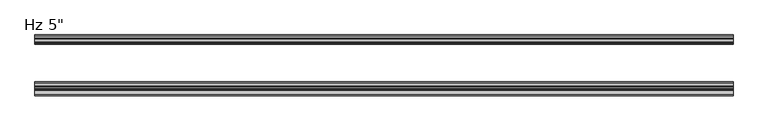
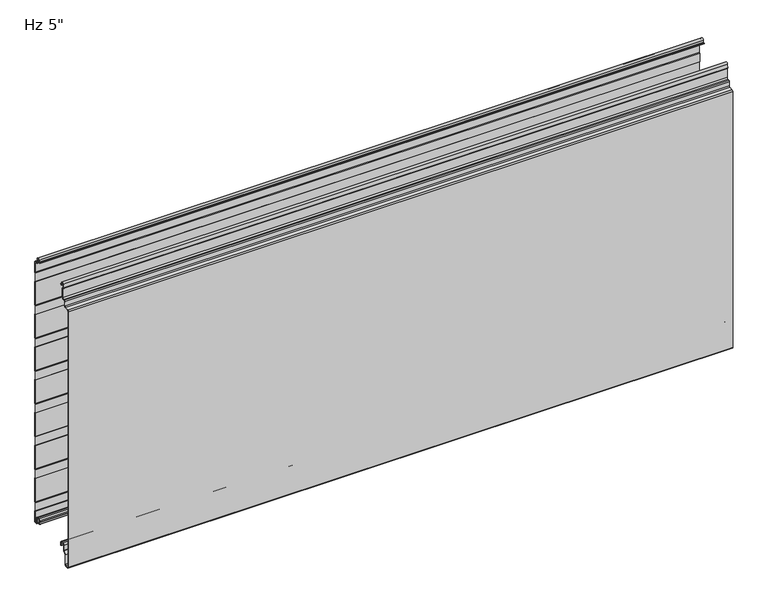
"""IFC4 building model written with IfcOpenShell, lengths in millimetres: plate geometry."""

from ifc_helpers import new_model, si_unit, point, frame, frame_2d, origin, place, context, project, spatial, polyline, circle_curve, trimmed, segment, composite_curve, outline, extrude, source, transform, mapped, element, save
from ifc_brep_helpers import plane_surface, cylinder_surface, revolved_surface, advanced_brep


def plate_04382809(model_context):
    return source(origin(), model_context, "Body", "SolidModel", [
        advanced_brep(
        [(-730.0, -17.0015159, 2.0313088), (-730.0, -18.0015191, 1.0313116), (-730.0, -19.0015104, 2.0313088), (-730.0, -19.0015105, 6.0315125), (-730.0, -18.0015159, 6.0315125), (-730.0, -18.0015159, 8.7237223), (-730.0, -14.7015202, 12.023718), (-730.0, -10.301529, 12.023718), (-730.0, -7.0015335, 8.7237225), (-730.0, -7.0015335, -1.6962564), (-730.0, -5.2315393, -3.4662506), (-730.0, -0.9999916, -3.4662506), (-730.0, -0.9999916, 21.034026), (-730.0, -2.2002307, 22.4196686), (-730.0, -2.2002307, 41.7948349), (-730.0, -1.0, 43.1804679), (-730.0, -1.0, 97.2338833), (-730.0, -2.2002307, 98.6195162), (-730.0, -2.2002307, 117.9946825), (-730.0, -1.0, 119.3803155), (-730.0, -1.0, 173.4337309), (-730.0, -2.2002307, 174.8193638), (-730.0, -2.2002307, 194.1945301), (-730.0, -1.0, 195.5801631), (-730.0, -1.0, 249.6335785), (-730.0, -2.2002307, 251.0192114), (-730.0, -2.2002307, 270.3943777), (-730.0, -1.0, 271.7800107), (-730.0, -1.0, 325.8334261), (-730.0, -2.2002307, 327.219059), (-730.0, -2.2002307, 346.5942253), (-730.0, -1.0, 347.9798583), (-730.0, -1.0, 402.0332737), (-730.0, -2.2002307, 403.4189066), (-730.0, -2.2002307, 422.7940729), (-730.0, -1.0, 424.1797059), (-730.0, -1.0, 478.2331213), (-730.0, -2.2002307, 479.6187542), (-730.0, -2.2002307, 498.9939205), (-730.0, -1.0, 500.3795535), (-730.0, -1.0, 554.4329689), (-730.0, -2.2002307, 555.8186018), (-730.0, -2.2002307, 575.1937681), (-730.0, -1.0, 576.5794011), (-730.0, -1.0, 601.0787013), (-730.0, -6.0026007, 601.0787013), (-730.0, -9.9974365, 604.9016499), (-730.0, -10.4046442, 613.3931719), (-730.0, -14.7059822, 613.3921924), (-730.0, -14.9256429, 609.2513685), (-730.0, -16.6743462, 607.5686884), (-730.0, -19.0015288, 607.5686884), (-730.0, -19.0015288, 608.5686884), (-730.0, -16.6743462, 608.5686884), (-730.0, -15.9247038, 609.2955779), (-730.0, -15.7045782, 613.4451655), (-730.0, -9.405912, 613.4435732), (-730.0, -8.9985844, 604.9495495), (-730.0, -6.0004836, 602.0787013), (-730.0, -1.4015652, 602.0787013), (-730.0, -0.001568, 600.678797), (-730.0, 2.09e-05, 576.7275849), (-730.0, -0.3417885, 575.8119353), (-730.0, -1.2002307, 574.8208877), (-730.0, -1.2002307, 556.1914823), (-730.0, -0.3417885, 555.2004346), (-730.0, 0.0, 554.2838177), (-730.0, 0.0, 500.5287046), (-730.0, -0.3417885, 499.6120877), (-730.0, -1.2002307, 498.6210401), (-730.0, -1.2002307, 479.9916347), (-730.0, -0.3417885, 479.000587), (-730.0, 0.0, 478.0839701), (-730.0, 0.0, 424.328857), (-730.0, -0.3417885, 423.4122401), (-730.0, -1.2002307, 422.4211925), (-730.0, -1.2002307, 403.7917871), (-730.0, -0.3417885, 402.8007394), (-730.0, 0.0, 401.8841225), (-730.0, 0.0, 348.1290094), (-730.0, -0.3417885, 347.2123925), (-730.0, -1.2002307, 346.2213449), (-730.0, -1.2002307, 327.5919395), (-730.0, -0.3417885, 326.6008918), (-730.0, 0.0, 325.6842749), (-730.0, 0.0, 271.9291618), (-730.0, -0.3417885, 271.0125449), (-730.0, -1.2002307, 270.0214973), (-730.0, -1.2002307, 251.3920919), (-730.0, -0.3417885, 250.4010442), (-730.0, 0.0, 249.4844273), (-730.0, 0.0, 195.7293142), (-730.0, -0.3417885, 194.8126973), (-730.0, -1.2002307, 193.8216497), (-730.0, -1.2002307, 175.1922443), (-730.0, -0.3417885, 174.2011966), (-730.0, 0.0, 173.2845797), (-730.0, 0.0, 119.5294666), (-730.0, -0.3417885, 118.6128497), (-730.0, -1.2002307, 117.6218021), (-730.0, -1.2002307, 98.9923967), (-730.0, -0.3417885, 98.001349), (-730.0, 0.0, 97.0847321), (-730.0, 0.0, 43.329619), (-730.0, -0.3417885, 42.4130021), (-730.0, -1.2002307, 41.4219545), (-730.0, -1.2002307, 22.7925491), (-730.0, -0.3417885, 21.8015014), (-730.0, 0.0, 20.8847931), (-730.0, 8.4e-06, -3.0662545), (-730.0, -1.3999878, -4.4662506), (-730.0, -5.2315393, -4.4662506), (-730.0, -8.0015335, -1.6962564), (-730.0, -8.0015335, 8.7237225), (-730.0, -10.301529, 11.023718), (-730.0, -14.7015202, 11.023718), (-730.0, -17.0015159, 8.7237223), (730.0, -17.0015159, 2.0313088), (730.0, -17.0015159, 8.7237223), (730.0, -14.7015202, 11.023718), (730.0, -10.301529, 11.023718), (730.0, -8.0015335, 8.7237225), (730.0, -8.0015335, -1.6962564), (730.0, -5.2315393, -4.4662506), (730.0, -1.3999878, -4.4662506), (730.0, 8.4e-06, -3.0662545), (730.0, 8.4e-06, 20.8848845), (730.0, -0.3417885, 21.8015014), (730.0, -1.2002307, 22.7925491), (730.0, -1.2002307, 41.4219545), (730.0, -0.3417885, 42.4130021), (730.0, 0.0, 43.329619), (730.0, 0.0, 97.0847321), (730.0, -0.3417885, 98.001349), (730.0, -1.2002307, 98.9923967), (730.0, -1.2002307, 117.6218021), (730.0, -0.3417885, 118.6128497), (730.0, 0.0, 119.5294666), (730.0, 0.0, 173.2845797), (730.0, -0.3417885, 174.2011966), (730.0, -1.2002307, 175.1922443), (730.0, -1.2002307, 193.8216497), (730.0, -0.3417885, 194.8126973), (730.0, 0.0, 195.7293142), (730.0, 0.0, 249.4844273), (730.0, -0.3417885, 250.4010442), (730.0, -1.2002307, 251.3920919), (730.0, -1.2002307, 270.0214973), (730.0, -0.3417885, 271.0125449), (730.0, 0.0, 271.9291618), (730.0, 0.0, 325.6842749), (730.0, -0.3417885, 326.6008918), (730.0, -1.2002307, 327.5919395), (730.0, -1.2002307, 346.2213449), (730.0, -0.3417885, 347.2123925), (730.0, 0.0, 348.1290094), (730.0, 0.0, 401.8841225), (730.0, -0.3417885, 402.8007394), (730.0, -1.2002307, 403.7917871), (730.0, -1.2002307, 422.4211925), (730.0, -0.3417885, 423.4122401), (730.0, 0.0, 424.328857), (730.0, 0.0, 478.0839701), (730.0, -0.3417885, 479.000587), (730.0, -1.2002307, 479.9916347), (730.0, -1.2002307, 498.6210401), (730.0, -0.3417885, 499.6120877), (730.0, 0.0, 500.5287046), (730.0, 0.0, 554.2838177), (730.0, -0.3417885, 555.2004346), (730.0, -1.2002307, 556.1914823), (730.0, -1.2002307, 574.8208877), (730.0, -0.3417885, 575.8119353), (730.0, 0.0, 576.7285522), (730.0, 2.09e-05, 600.678797), (730.0, -1.4015652, 602.0787013), (730.0, -6.0004836, 602.0787013), (730.0, -8.9985844, 604.9495495), (730.0, -9.405912, 613.4435732), (730.0, -15.7045782, 613.4451655), (730.0, -15.9247038, 609.2955779), (730.0, -16.6743462, 608.5686884), (730.0, -19.0015288, 608.5686884), (730.0, -19.0015288, 607.5686884), (730.0, -16.6743462, 607.5686884), (730.0, -14.9256429, 609.2513685), (730.0, -14.7059822, 613.3921924), (730.0, -10.4046442, 613.3931719), (730.0, -9.9974365, 604.9016499), (730.0, -6.0026007, 601.0787013), (730.0, -1.0, 601.0787013), (730.0, -1.0, 576.5794011), (730.0, -2.2002307, 575.1937681), (730.0, -2.2002307, 555.8186018), (730.0, -1.0, 554.4329689), (730.0, -1.0, 500.3795535), (730.0, -2.2002307, 498.9939205), (730.0, -2.2002307, 479.6187542), (730.0, -1.0, 478.2331213), (730.0, -1.0, 424.1797059), (730.0, -2.2002307, 422.7940729), (730.0, -2.2002307, 403.4189066), (730.0, -1.0, 402.0332737), (730.0, -1.0, 347.9798583), (730.0, -2.2002307, 346.5942253), (730.0, -2.2002307, 327.219059), (730.0, -1.0, 325.8334261), (730.0, -1.0, 271.7800107), (730.0, -2.2002307, 270.3943777), (730.0, -2.2002307, 251.0192114), (730.0, -1.0, 249.6335785), (730.0, -1.0, 195.5801631), (730.0, -2.2002307, 194.1945301), (730.0, -2.2002307, 174.8193638), (730.0, -1.0, 173.4337309), (730.0, -1.0, 119.3803155), (730.0, -2.2002307, 117.9946825), (730.0, -2.2002307, 98.6195162), (730.0, -1.0, 97.2338833), (730.0, -1.0, 43.1804679), (730.0, -2.2002307, 41.7948349), (730.0, -2.2002307, 22.4196686), (730.0, -0.9999916, 21.034026), (730.0, -0.9999916, -3.4662506), (730.0, -5.2315393, -3.4662506), (730.0, -7.0015335, -1.6962564), (730.0, -7.0015335, 8.7237225), (730.0, -10.301529, 12.023718), (730.0, -14.7015202, 12.023718), (730.0, -18.0015159, 8.7237223), (730.0, -18.0015159, 6.0315125), (730.0, -19.0015105, 6.0315125), (730.0, -19.0015105, 2.0313088), (730.0, -18.0015191, 1.0313116)],
        [
            (0, 1, circle_curve(frame((-730.0, -18.0015132, 2.0313088), z_axis=(-1.0, 0.0, 0.0), x_axis=(0.0, 0.0, 1.0)), 0.9999973)),
            (1, 2, circle_curve(frame((-730.0, -18.0015132, 2.0313088), z_axis=(-1.0, 0.0, 0.0), x_axis=(0.0, 0.0, 1.0)), 0.9999972)),
            (2, 3),
            (3, 4),
            (4, 5),
            (5, 6, circle_curve(frame((-730.0, -14.7015202, 8.7237223), z_axis=(-1.0, 0.0, 0.0), x_axis=(0.0, 0.0, 1.0)), 3.2999957)),
            (6, 7),
            (7, 8, circle_curve(frame((-730.0, -10.301529, 8.7237225), z_axis=(-1.0, 0.0, 0.0), x_axis=(0.0, 0.0, 1.0)), 3.2999955)),
            (8, 9),
            (9, 10, circle_curve(frame((-730.0, -5.2315393, -1.6962564), z_axis=(1.0, 0.0, 0.0), x_axis=(0.0, 0.0, 1.0)), 1.7699942)),
            (10, 11),
            (11, 12),
            (12, 13),
            (13, 14),
            (14, 15),
            (15, 16),
            (16, 17),
            (17, 18),
            (18, 19),
            (19, 20),
            (20, 21),
            (21, 22),
            (22, 23),
            (23, 24),
            (24, 25),
            (25, 26),
            (26, 27),
            (27, 28),
            (28, 29),
            (29, 30),
            (30, 31),
            (31, 32),
            (32, 33),
            (33, 34),
            (34, 35),
            (35, 36),
            (36, 37),
            (37, 38),
            (38, 39),
            (39, 40),
            (40, 41),
            (41, 42),
            (42, 43),
            (43, 44),
            (44, 45),
            (45, 46, circle_curve(frame((-730.0, -5.9867338, 605.0939817), z_axis=(-1.0, 0.0, 0.0), x_axis=(0.0, 0.0, 1.0)), 4.0153117)),
            (46, 47),
            (47, 48, circle_curve(frame((-730.0, -12.5552871, 613.2781032), z_axis=(1.0, 0.0, 0.0), x_axis=(0.0, 0.0, 1.0)), 2.153719)),
            (48, 49),
            (49, 50, circle_curve(frame((-730.0, -16.6743462, 609.3186869), z_axis=(-1.0, 0.0, 0.0), x_axis=(0.0, 0.0, 1.0)), 1.7499985)),
            (50, 51),
            (51, 52),
            (52, 53),
            (53, 54, circle_curve(frame((-730.0, -16.6743462, 609.3186869), z_axis=(1.0, 0.0, 0.0), x_axis=(0.0, 0.0, 1.0)), 0.7499985)),
            (54, 55),
            (55, 56, circle_curve(frame((-730.0, -12.5552871, 613.2781032), z_axis=(-1.0, 0.0, 0.0), x_axis=(0.0, 0.0, 1.0)), 3.153719)),
            (56, 57),
            (57, 58, circle_curve(frame((-730.0, -5.9867338, 605.0939817), z_axis=(1.0, 0.0, 0.0), x_axis=(0.0, 0.0, 1.0)), 3.0153117)),
            (58, 59),
            (59, 60, circle_curve(frame((-730.0, -1.4015652, 600.6787041), z_axis=(-1.0, 0.0, 0.0), x_axis=(0.0, 0.0, 1.0)), 1.3999972)),
            (60, 61),
            (61, 62, circle_curve(frame((-730.0, -1.3999972, 576.7285522), z_axis=(-1.0, 0.0, 0.0), x_axis=(0.0, 0.0, 1.0)), 1.3999972)),
            (62, 63),
            (63, 64),
            (64, 65),
            (65, 66, circle_curve(frame((-730.0, -1.3999972, 554.2838177), z_axis=(-1.0, 0.0, 0.0), x_axis=(0.0, 0.0, 1.0)), 1.3999972)),
            (66, 67),
            (67, 68, circle_curve(frame((-730.0, -1.3999972, 500.5287046), z_axis=(-1.0, 0.0, 0.0), x_axis=(0.0, 0.0, 1.0)), 1.3999972)),
            (68, 69),
            (69, 70),
            (70, 71),
            (71, 72, circle_curve(frame((-730.0, -1.3999972, 478.0839701), z_axis=(-1.0, 0.0, 0.0), x_axis=(0.0, 0.0, 1.0)), 1.3999972)),
            (72, 73),
            (73, 74, circle_curve(frame((-730.0, -1.3999972, 424.328857), z_axis=(-1.0, 0.0, 0.0), x_axis=(0.0, 0.0, 1.0)), 1.3999972)),
            (74, 75),
            (75, 76),
            (76, 77),
            (77, 78, circle_curve(frame((-730.0, -1.3999972, 401.8841225), z_axis=(-1.0, 0.0, 0.0), x_axis=(0.0, 0.0, 1.0)), 1.3999972)),
            (78, 79),
            (79, 80, circle_curve(frame((-730.0, -1.3999972, 348.1290094), z_axis=(-1.0, 0.0, 0.0), x_axis=(0.0, 0.0, 1.0)), 1.3999972)),
            (80, 81),
            (81, 82),
            (82, 83),
            (83, 84, circle_curve(frame((-730.0, -1.3999972, 325.6842749), z_axis=(-1.0, 0.0, 0.0), x_axis=(0.0, 0.0, 1.0)), 1.3999972)),
            (84, 85),
            (85, 86, circle_curve(frame((-730.0, -1.3999972, 271.9291618), z_axis=(-1.0, 0.0, 0.0), x_axis=(0.0, 0.0, 1.0)), 1.3999972)),
            (86, 87),
            (87, 88),
            (88, 89),
            (89, 90, circle_curve(frame((-730.0, -1.3999972, 249.4844273), z_axis=(-1.0, 0.0, 0.0), x_axis=(0.0, 0.0, 1.0)), 1.3999972)),
            (90, 91),
            (91, 92, circle_curve(frame((-730.0, -1.3999972, 195.7293142), z_axis=(-1.0, 0.0, 0.0), x_axis=(0.0, 0.0, 1.0)), 1.3999972)),
            (92, 93),
            (93, 94),
            (94, 95),
            (95, 96, circle_curve(frame((-730.0, -1.3999972, 173.2845797), z_axis=(-1.0, 0.0, 0.0), x_axis=(0.0, 0.0, 1.0)), 1.3999972)),
            (96, 97),
            (97, 98, circle_curve(frame((-730.0, -1.3999972, 119.5294666), z_axis=(-1.0, 0.0, 0.0), x_axis=(0.0, 0.0, 1.0)), 1.3999972)),
            (98, 99),
            (99, 100),
            (100, 101),
            (101, 102, circle_curve(frame((-730.0, -1.3999972, 97.0847321), z_axis=(-1.0, 0.0, 0.0), x_axis=(0.0, 0.0, 1.0)), 1.3999972)),
            (102, 103),
            (103, 104, circle_curve(frame((-730.0, -1.3999972, 43.329619), z_axis=(-1.0, 0.0, 0.0), x_axis=(0.0, 0.0, 1.0)), 1.3999972)),
            (104, 105),
            (105, 106),
            (106, 107),
            (107, 108, circle_curve(frame((-730.0, -1.3999972, 20.8848845), z_axis=(-1.0, 0.0, 0.0), x_axis=(0.0, 0.0, 1.0)), 1.3999972)),
            (108, 109),
            (109, 110, circle_curve(frame((-730.0, -1.3999878, -3.0662545), z_axis=(-1.0, 0.0, 0.0), x_axis=(0.0, 0.0, 1.0)), 1.3999962)),
            (110, 111),
            (111, 112, circle_curve(frame((-730.0, -5.2315393, -1.6962564), z_axis=(-1.0, 0.0, 0.0), x_axis=(0.0, 0.0, 1.0)), 2.7699942)),
            (112, 113),
            (113, 114, circle_curve(frame((-730.0, -10.301529, 8.7237225), z_axis=(1.0, 0.0, 0.0), x_axis=(0.0, 0.0, 1.0)), 2.2999955)),
            (114, 115),
            (115, 116, circle_curve(frame((-730.0, -14.7015202, 8.7237223), z_axis=(1.0, 0.0, 0.0), x_axis=(0.0, 0.0, 1.0)), 2.2999957)),
            (116, 0),
            (117, 118),
            (118, 119, circle_curve(frame((730.0, -14.7015202, 8.7237223), z_axis=(-1.0, 0.0, 0.0), x_axis=(0.0, 0.0, 1.0)), 2.2999957)),
            (119, 120),
            (120, 121, circle_curve(frame((730.0, -10.301529, 8.7237225), z_axis=(-1.0, 0.0, 0.0), x_axis=(0.0, 0.0, 1.0)), 2.2999955)),
            (121, 122),
            (122, 123, circle_curve(frame((730.0, -5.2315393, -1.6962564), z_axis=(1.0, 0.0, 0.0), x_axis=(0.0, 0.0, 1.0)), 2.7699942)),
            (123, 124),
            (124, 125, circle_curve(frame((730.0, -1.3999878, -3.0662545), z_axis=(1.0, 0.0, 0.0), x_axis=(0.0, 0.0, 1.0)), 1.3999962)),
            (125, 126),
            (126, 127, circle_curve(frame((730.0, -1.3999972, 20.8848845), z_axis=(1.0, 0.0, 0.0), x_axis=(0.0, 0.0, 1.0)), 1.3999972)),
            (127, 128),
            (128, 129),
            (129, 130),
            (130, 131, circle_curve(frame((730.0, -1.3999972, 43.329619), z_axis=(1.0, 0.0, 0.0), x_axis=(0.0, 0.0, 1.0)), 1.3999972)),
            (131, 132),
            (132, 133, circle_curve(frame((730.0, -1.3999972, 97.0847321), z_axis=(1.0, 0.0, 0.0), x_axis=(0.0, 0.0, 1.0)), 1.3999972)),
            (133, 134),
            (134, 135),
            (135, 136),
            (136, 137, circle_curve(frame((730.0, -1.3999972, 119.5294666), z_axis=(1.0, 0.0, 0.0), x_axis=(0.0, 0.0, 1.0)), 1.3999972)),
            (137, 138),
            (138, 139, circle_curve(frame((730.0, -1.3999972, 173.2845797), z_axis=(1.0, 0.0, 0.0), x_axis=(0.0, 0.0, 1.0)), 1.3999972)),
            (139, 140),
            (140, 141),
            (141, 142),
            (142, 143, circle_curve(frame((730.0, -1.3999972, 195.7293142), z_axis=(1.0, 0.0, 0.0), x_axis=(0.0, 0.0, 1.0)), 1.3999972)),
            (143, 144),
            (144, 145, circle_curve(frame((730.0, -1.3999972, 249.4844273), z_axis=(1.0, 0.0, 0.0), x_axis=(0.0, 0.0, 1.0)), 1.3999972)),
            (145, 146),
            (146, 147),
            (147, 148),
            (148, 149, circle_curve(frame((730.0, -1.3999972, 271.9291618), z_axis=(1.0, 0.0, 0.0), x_axis=(0.0, 0.0, 1.0)), 1.3999972)),
            (149, 150),
            (150, 151, circle_curve(frame((730.0, -1.3999972, 325.6842749), z_axis=(1.0, 0.0, 0.0), x_axis=(0.0, 0.0, 1.0)), 1.3999972)),
            (151, 152),
            (152, 153),
            (153, 154),
            (154, 155, circle_curve(frame((730.0, -1.3999972, 348.1290094), z_axis=(1.0, 0.0, 0.0), x_axis=(0.0, 0.0, 1.0)), 1.3999972)),
            (155, 156),
            (156, 157, circle_curve(frame((730.0, -1.3999972, 401.8841225), z_axis=(1.0, 0.0, 0.0), x_axis=(0.0, 0.0, 1.0)), 1.3999972)),
            (157, 158),
            (158, 159),
            (159, 160),
            (160, 161, circle_curve(frame((730.0, -1.3999972, 424.328857), z_axis=(1.0, 0.0, 0.0), x_axis=(0.0, 0.0, 1.0)), 1.3999972)),
            (161, 162),
            (162, 163, circle_curve(frame((730.0, -1.3999972, 478.0839701), z_axis=(1.0, 0.0, 0.0), x_axis=(0.0, 0.0, 1.0)), 1.3999972)),
            (163, 164),
            (164, 165),
            (165, 166),
            (166, 167, circle_curve(frame((730.0, -1.3999972, 500.5287046), z_axis=(1.0, 0.0, 0.0), x_axis=(0.0, 0.0, 1.0)), 1.3999972)),
            (167, 168),
            (168, 169, circle_curve(frame((730.0, -1.3999972, 554.2838177), z_axis=(1.0, 0.0, 0.0), x_axis=(0.0, 0.0, 1.0)), 1.3999972)),
            (169, 170),
            (170, 171),
            (171, 172),
            (172, 173, circle_curve(frame((730.0, -1.3999972, 576.7285522), z_axis=(1.0, 0.0, 0.0), x_axis=(0.0, 0.0, 1.0)), 1.3999972)),
            (173, 174),
            (174, 175, circle_curve(frame((730.0, -1.4015652, 600.6787041), z_axis=(1.0, 0.0, 0.0), x_axis=(0.0, 0.0, 1.0)), 1.3999972)),
            (175, 176),
            (176, 177, circle_curve(frame((730.0, -5.9867338, 605.0939817), z_axis=(-1.0, 0.0, 0.0), x_axis=(0.0, 0.0, 1.0)), 3.0153117)),
            (177, 178),
            (178, 179, circle_curve(frame((730.0, -12.5552871, 613.2781032), z_axis=(1.0, 0.0, 0.0), x_axis=(0.0, 0.0, 1.0)), 3.153719)),
            (179, 180),
            (180, 181, circle_curve(frame((730.0, -16.6743462, 609.3186869), z_axis=(-1.0, 0.0, 0.0), x_axis=(0.0, 0.0, 1.0)), 0.7499985)),
            (181, 182),
            (182, 183),
            (183, 184),
            (184, 185, circle_curve(frame((730.0, -16.6743462, 609.3186869), z_axis=(1.0, 0.0, 0.0), x_axis=(0.0, 0.0, 1.0)), 1.7499985)),
            (185, 186),
            (186, 187, circle_curve(frame((730.0, -12.5552871, 613.2781032), z_axis=(-1.0, 0.0, 0.0), x_axis=(0.0, 0.0, 1.0)), 2.153719)),
            (187, 188),
            (188, 189, circle_curve(frame((730.0, -5.9867338, 605.0939817), z_axis=(1.0, 0.0, 0.0), x_axis=(0.0, 0.0, 1.0)), 4.0153117)),
            (189, 190),
            (190, 191),
            (191, 192),
            (192, 193),
            (193, 194),
            (194, 195),
            (195, 196),
            (196, 197),
            (197, 198),
            (198, 199),
            (199, 200),
            (200, 201),
            (201, 202),
            (202, 203),
            (203, 204),
            (204, 205),
            (205, 206),
            (206, 207),
            (207, 208),
            (208, 209),
            (209, 210),
            (210, 211),
            (211, 212),
            (212, 213),
            (213, 214),
            (214, 215),
            (215, 216),
            (216, 217),
            (217, 218),
            (218, 219),
            (219, 220),
            (220, 221),
            (221, 222),
            (222, 223),
            (223, 224),
            (224, 225, circle_curve(frame((730.0, -5.2315393, -1.6962564), z_axis=(-1.0, 0.0, 0.0), x_axis=(0.0, 0.0, 1.0)), 1.7699942)),
            (225, 226),
            (226, 227, circle_curve(frame((730.0, -10.301529, 8.7237225), z_axis=(1.0, 0.0, 0.0), x_axis=(0.0, 0.0, 1.0)), 3.2999955)),
            (227, 228),
            (228, 229, circle_curve(frame((730.0, -14.7015202, 8.7237223), z_axis=(1.0, 0.0, 0.0), x_axis=(0.0, 0.0, 1.0)), 3.2999957)),
            (229, 230),
            (230, 231),
            (231, 232),
            (232, 233, circle_curve(frame((730.0, -18.0015132, 2.0313088), z_axis=(1.0, 0.0, 0.0), x_axis=(0.0, 0.0, 1.0)), 0.9999972)),
            (233, 117, circle_curve(frame((730.0, -18.0015132, 2.0313088), z_axis=(1.0, 0.0, 0.0), x_axis=(0.0, 0.0, 1.0)), 0.9999973)),
            (116, 118),
            (117, 0),
            (115, 119),
            (114, 120),
            (113, 121),
            (112, 122),
            (111, 123),
            (110, 124),
            (109, 125),
            (108, 126),
            (90, 144),
            (143, 91),
            (107, 127),
            (106, 128),
            (105, 129),
            (103, 131),
            (130, 104),
            (101, 133),
            (132, 102),
            (86, 148),
            (147, 87),
            (142, 92),
            (141, 93),
            (96, 138),
            (137, 97),
            (89, 145),
            (88, 146),
            (85, 149),
            (136, 98),
            (99, 135),
            (134, 100),
            (95, 139),
            (94, 140),
            (2, 232),
            (231, 3),
            (1, 233),
            (84, 150),
            (83, 151),
            (82, 152),
            (81, 153),
            (80, 154),
            (79, 155),
            (78, 156),
            (77, 157),
            (76, 158),
            (75, 159),
            (74, 160),
            (73, 161),
            (72, 162),
            (71, 163),
            (70, 164),
            (69, 165),
            (68, 166),
            (67, 167),
            (66, 168),
            (65, 169),
            (64, 170),
            (63, 171),
            (62, 172),
            (61, 173),
            (60, 174),
            (59, 175),
            (58, 176),
            (57, 177),
            (56, 178),
            (55, 179),
            (54, 180),
            (53, 181),
            (52, 182),
            (51, 183),
            (50, 184),
            (49, 185),
            (48, 186),
            (47, 187),
            (46, 188),
            (45, 189),
            (44, 190),
            (43, 191),
            (42, 192),
            (41, 193),
            (40, 194),
            (39, 195),
            (38, 196),
            (37, 197),
            (36, 198),
            (35, 199),
            (34, 200),
            (33, 201),
            (32, 202),
            (31, 203),
            (30, 204),
            (29, 205),
            (28, 206),
            (27, 207),
            (26, 208),
            (25, 209),
            (24, 210),
            (23, 211),
            (22, 212),
            (21, 213),
            (20, 214),
            (19, 215),
            (18, 216),
            (17, 217),
            (16, 218),
            (15, 219),
            (14, 220),
            (13, 221),
            (12, 222),
            (11, 223),
            (10, 224),
            (9, 225),
            (8, 226),
            (7, 227),
            (6, 228),
            (5, 229),
            (4, 230),
        ],
        [
            plane_surface(frame((-730.0, 0.0, 304.8), z_axis=(-1.0, 0.0, 0.0), x_axis=(0.0, 1.0, 0.0))),
            plane_surface(frame((730.0, 0.0, 304.8), z_axis=(1.0, 0.0, 0.0), x_axis=(0.0, 1.0, 0.0))),
            plane_surface(frame((-730.0, -17.0015159, 2.0313088), z_axis=(0.0, 1.0, 0.0), x_axis=(1.0, 0.0, 0.0))),
            revolved_surface(polyline([(730.0, -14.7015202, 11.023718), (-730.0, -14.7015202, 11.023718)]), (-730.0, -14.7015202, 8.7237223), (1.0, 0.0, 0.0)),
            plane_surface(frame((-730.0, -14.7015202, 11.023718), z_axis=(0.0, 0.0, -1.0), x_axis=(1.0, 0.0, 0.0))),
            revolved_surface(polyline([(730.0, -10.301529, 11.023717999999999), (-730.0, -10.301529, 11.023717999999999)]), (-730.0, -10.301529, 8.7237225), (1.0, 0.0, 0.0)),
            plane_surface(frame((-730.0, -8.0015335, 8.7237225), z_axis=(0.0, -1.0, 0.0), x_axis=(1.0, 0.0, 0.0))),
            cylinder_surface(frame((-730.0, -5.2315393, -1.6962564), z_axis=(-1.0, 0.0, 0.0), x_axis=(0.0, 0.0, 1.0)), 2.7699942),
            plane_surface(frame((-730.0, -5.2315393, -4.4662506), z_axis=(0.0, 0.0, -1.0), x_axis=(1.0, 0.0, 0.0))),
            cylinder_surface(frame((-730.0, -1.3999878, -3.0662545), z_axis=(-1.0, 0.0, 0.0), x_axis=(0.0, 0.0, 1.0)), 1.3999962),
            plane_surface(frame((-730.0, 8.4e-06, -3.0662545), z_axis=(0.0, 1.0, 0.0), x_axis=(1.0, 0.0, 0.0))),
            plane_surface(frame((-730.0, 0.0, 195.7293142), z_axis=(0.0, 1.0, 0.0), x_axis=(1.0, 0.0, 0.0))),
            cylinder_surface(frame((-730.0, -1.3999972, 20.8848845), z_axis=(-1.0, 0.0, 0.0), x_axis=(0.0, 0.0, 1.0)), 1.3999972),
            plane_surface(frame((-730.0, -0.3417885, 21.8015014), z_axis=(0.0, 0.755864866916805, 0.6547276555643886), x_axis=(1.0, 0.0, 0.0))),
            plane_surface(frame((-730.0, -1.2002307, 32.1072518), z_axis=(0.0, 1.0, 0.0), x_axis=(1.0, 0.0, 0.0))),
            cylinder_surface(frame((-730.0, -1.3999972, 43.329619), z_axis=(-1.0, 0.0, 0.0), x_axis=(0.0, 0.0, 1.0)), 1.3999972),
            plane_surface(frame((-730.0, -1.2002307, 41.4219545), z_axis=(0.0, 0.755864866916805, -0.6547276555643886), x_axis=(1.0, 0.0, 0.0))),
            cylinder_surface(frame((-730.0, -1.3999972, 97.0847321), z_axis=(-1.0, 0.0, 0.0), x_axis=(0.0, 0.0, 1.0)), 1.3999972),
            plane_surface(frame((-730.0, -1.2002307, 270.0214973), z_axis=(0.0, 0.755864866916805, -0.6547276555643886), x_axis=(1.0, 0.0, 0.0))),
            cylinder_surface(frame((-730.0, -1.3999972, 195.7293142), z_axis=(-1.0, 0.0, 0.0), x_axis=(0.0, 0.0, 1.0)), 1.3999972),
            plane_surface(frame((-730.0, -1.2002307, 193.8216497), z_axis=(0.0, 0.755864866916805, -0.6547276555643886), x_axis=(1.0, 0.0, 0.0))),
            plane_surface(frame((-730.0, 0.0, 119.5294666), z_axis=(0.0, 1.0, 0.0), x_axis=(1.0, 0.0, 0.0))),
            cylinder_surface(frame((-730.0, -1.3999972, 249.4844273), z_axis=(-1.0, 0.0, 0.0), x_axis=(0.0, 0.0, 1.0)), 1.3999972),
            plane_surface(frame((-730.0, -0.3417885, 250.4010442), z_axis=(0.0, 0.755864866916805, 0.6547276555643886), x_axis=(1.0, 0.0, 0.0))),
            plane_surface(frame((-730.0, -1.2002307, 260.7067946), z_axis=(0.0, 1.0, 0.0), x_axis=(1.0, 0.0, 0.0))),
            cylinder_surface(frame((-730.0, -1.3999972, 271.9291618), z_axis=(-1.0, 0.0, 0.0), x_axis=(0.0, 0.0, 1.0)), 1.3999972),
            cylinder_surface(frame((-730.0, -1.3999972, 119.5294666), z_axis=(-1.0, 0.0, 0.0), x_axis=(0.0, 0.0, 1.0)), 1.3999972),
            plane_surface(frame((-730.0, -1.2002307, 108.3070994), z_axis=(0.0, 1.0, 0.0), x_axis=(1.0, 0.0, 0.0))),
            plane_surface(frame((-730.0, -0.3417885, 98.001349), z_axis=(0.0, 0.755864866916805, 0.6547276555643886), x_axis=(1.0, 0.0, 0.0))),
            plane_surface(frame((-730.0, -1.2002307, 117.6218021), z_axis=(0.0, 0.755864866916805, -0.6547276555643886), x_axis=(1.0, 0.0, 0.0))),
            plane_surface(frame((-730.0, 0.0, 43.329619), z_axis=(0.0, 1.0, 0.0), x_axis=(1.0, 0.0, 0.0))),
            cylinder_surface(frame((-730.0, -1.3999972, 173.2845797), z_axis=(-1.0, 0.0, 0.0), x_axis=(0.0, 0.0, 1.0)), 1.3999972),
            plane_surface(frame((-730.0, -0.3417885, 174.2011966), z_axis=(0.0, 0.755864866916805, 0.6547276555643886), x_axis=(1.0, 0.0, 0.0))),
            plane_surface(frame((-730.0, -1.2002307, 184.506947), z_axis=(0.0, 1.0, 0.0), x_axis=(1.0, 0.0, 0.0))),
            plane_surface(frame((-730.0, -19.0015105, 6.0315125), z_axis=(0.0, -1.0, 0.0), x_axis=(1.0, 0.0, 0.0))),
            cylinder_surface(frame((-730.0, -18.0015132, 2.0313088), z_axis=(-1.0, 0.0, 0.0), x_axis=(0.0, 0.0, 1.0)), 0.9999972),
            cylinder_surface(frame((-730.0, -18.0015132, 2.0313088), z_axis=(-1.0, 0.0, 0.0), x_axis=(0.0, 0.0, 1.0)), 0.9999973),
            plane_surface(frame((-730.0, 0.0, 271.9291618), z_axis=(0.0, 1.0, 0.0), x_axis=(1.0, 0.0, 0.0))),
            cylinder_surface(frame((-730.0, -1.3999972, 325.6842749), z_axis=(-1.0, 0.0, 0.0), x_axis=(0.0, 0.0, 1.0)), 1.3999972),
            plane_surface(frame((-730.0, -0.3417885, 326.6008918), z_axis=(0.0, 0.755864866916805, 0.6547276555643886), x_axis=(1.0, 0.0, 0.0))),
            plane_surface(frame((-730.0, -1.2002307, 336.9066422), z_axis=(0.0, 1.0, 0.0), x_axis=(1.0, 0.0, 0.0))),
            plane_surface(frame((-730.0, -1.2002307, 346.2213449), z_axis=(0.0, 0.755864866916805, -0.6547276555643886), x_axis=(1.0, 0.0, 0.0))),
            cylinder_surface(frame((-730.0, -1.3999972, 348.1290094), z_axis=(-1.0, 0.0, 0.0), x_axis=(0.0, 0.0, 1.0)), 1.3999972),
            plane_surface(frame((-730.0, 0.0, 348.1290094), z_axis=(0.0, 1.0, 0.0), x_axis=(1.0, 0.0, 0.0))),
            cylinder_surface(frame((-730.0, -1.3999972, 401.8841225), z_axis=(-1.0, 0.0, 0.0), x_axis=(0.0, 0.0, 1.0)), 1.3999972),
            plane_surface(frame((-730.0, -0.3417885, 402.8007394), z_axis=(0.0, 0.755864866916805, 0.6547276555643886), x_axis=(1.0, 0.0, 0.0))),
            plane_surface(frame((-730.0, -1.2002307, 413.1064898), z_axis=(0.0, 1.0, 0.0), x_axis=(1.0, 0.0, 0.0))),
            plane_surface(frame((-730.0, -1.2002307, 422.4211925), z_axis=(0.0, 0.755864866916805, -0.6547276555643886), x_axis=(1.0, 0.0, 0.0))),
            cylinder_surface(frame((-730.0, -1.3999972, 424.328857), z_axis=(-1.0, 0.0, 0.0), x_axis=(0.0, 0.0, 1.0)), 1.3999972),
            plane_surface(frame((-730.0, 0.0, 424.328857), z_axis=(0.0, 1.0, 0.0), x_axis=(1.0, 0.0, 0.0))),
            cylinder_surface(frame((-730.0, -1.3999972, 478.0839701), z_axis=(-1.0, 0.0, 0.0), x_axis=(0.0, 0.0, 1.0)), 1.3999972),
            plane_surface(frame((-730.0, -0.3417885, 479.000587), z_axis=(0.0, 0.755864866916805, 0.6547276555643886), x_axis=(1.0, 0.0, 0.0))),
            plane_surface(frame((-730.0, -1.2002307, 489.3063374), z_axis=(0.0, 1.0, 0.0), x_axis=(1.0, 0.0, 0.0))),
            plane_surface(frame((-730.0, -1.2002307, 498.6210401), z_axis=(0.0, 0.755864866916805, -0.6547276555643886), x_axis=(1.0, 0.0, 0.0))),
            cylinder_surface(frame((-730.0, -1.3999972, 500.5287046), z_axis=(-1.0, 0.0, 0.0), x_axis=(0.0, 0.0, 1.0)), 1.3999972),
            plane_surface(frame((-730.0, 0.0, 500.5287046), z_axis=(0.0, 1.0, 0.0), x_axis=(1.0, 0.0, 0.0))),
            cylinder_surface(frame((-730.0, -1.3999972, 554.2838177), z_axis=(-1.0, 0.0, 0.0), x_axis=(0.0, 0.0, 1.0)), 1.3999972),
            plane_surface(frame((-730.0, -0.3417885, 555.2004346), z_axis=(0.0, 0.755864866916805, 0.6547276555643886), x_axis=(1.0, 0.0, 0.0))),
            plane_surface(frame((-730.0, -1.2002307, 565.506185), z_axis=(0.0, 1.0, 0.0), x_axis=(1.0, 0.0, 0.0))),
            plane_surface(frame((-730.0, -1.2002307, 574.8208877), z_axis=(0.0, 0.755864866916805, -0.6547276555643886), x_axis=(1.0, 0.0, 0.0))),
            cylinder_surface(frame((-730.0, -1.3999972, 576.7285522), z_axis=(-1.0, 0.0, 0.0), x_axis=(0.0, 0.0, 1.0)), 1.3999972),
            plane_surface(frame((-730.0, 2.09e-05, 576.7275849), z_axis=(0.0, 1.0, 0.0), x_axis=(1.0, 0.0, 0.0))),
            cylinder_surface(frame((-730.0, -1.4015652, 600.6787041), z_axis=(-1.0, 0.0, 0.0), x_axis=(0.0, 0.0, 1.0)), 1.3999972),
            plane_surface(frame((-730.0, -1.4015652, 602.0787013), z_axis=(0.0, 0.0, 1.0), x_axis=(1.0, 0.0, 0.0))),
            revolved_surface(polyline([(730.0, -5.9867338, 608.1092934), (-730.0, -5.9867338, 608.1092934)]), (-730.0, -5.9867338, 605.0939817), (1.0, 0.0, 0.0)),
            plane_surface(frame((-730.0, -8.9985844, 604.9495495), z_axis=(0.0, 0.9988521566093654, 0.047899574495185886), x_axis=(1.0, 0.0, 0.0))),
            cylinder_surface(frame((-730.0, -12.5552871, 613.2781032), z_axis=(-1.0, 0.0, 0.0), x_axis=(0.0, 0.0, 1.0)), 3.153719),
            plane_surface(frame((-730.0, -15.7045782, 613.4451655), z_axis=(0.0, -0.9985959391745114, 0.05297310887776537), x_axis=(1.0, 0.0, 0.0))),
            revolved_surface(polyline([(730.0, -16.6743462, 610.0686853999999), (-730.0, -16.6743462, 610.0686853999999)]), (-730.0, -16.6743462, 609.3186869), (1.0, 0.0, 0.0)),
            plane_surface(frame((-730.0, -17.5871409, 608.5686884), z_axis=(0.0, 0.0, 1.0), x_axis=(1.0, 0.0, 0.0))),
            plane_surface(frame((-730.0, -19.0015288, 608.5686884), z_axis=(0.0, -1.0, 0.0), x_axis=(1.0, 0.0, 0.0))),
            plane_surface(frame((-730.0, -17.5871409, 607.5686884), z_axis=(0.0, 0.0, -1.0), x_axis=(1.0, 0.0, 0.0))),
            cylinder_surface(frame((-730.0, -16.6743462, 609.3186869), z_axis=(-1.0, 0.0, 0.0), x_axis=(0.0, 0.0, 1.0)), 1.7499985),
            plane_surface(frame((-730.0, -14.9256429, 609.2513685), z_axis=(0.0, 0.998595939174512, -0.05297310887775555), x_axis=(1.0, 0.0, 0.0))),
            revolved_surface(polyline([(730.0, -12.5552871, 615.4318222), (-730.0, -12.5552871, 615.4318222)]), (-730.0, -12.5552871, 613.2781032), (1.0, 0.0, 0.0)),
            plane_surface(frame((-730.0, -10.4046442, 613.3931719), z_axis=(0.0, -0.9988521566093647, -0.04789957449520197), x_axis=(1.0, 0.0, 0.0))),
            cylinder_surface(frame((-730.0, -5.9867338, 605.0939817), z_axis=(-1.0, 0.0, 0.0), x_axis=(0.0, 0.0, 1.0)), 4.0153117),
            plane_surface(frame((-730.0, -6.0026007, 601.0787013), z_axis=(0.0, 0.0, -1.0), x_axis=(1.0, 0.0, 0.0))),
            plane_surface(frame((-730.0, -1.0, 601.0787013), z_axis=(0.0, -1.0, 0.0), x_axis=(1.0, 0.0, 0.0))),
            plane_surface(frame((-730.0, -1.0, 576.5794011), z_axis=(0.0, -0.755864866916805, 0.6547276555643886), x_axis=(1.0, 0.0, 0.0))),
            plane_surface(frame((-730.0, -2.2002307, 575.1937681), z_axis=(0.0, -1.0, 0.0), x_axis=(1.0, 0.0, 0.0))),
            plane_surface(frame((-730.0, -2.2002307, 555.8186018), z_axis=(0.0, -0.755864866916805, -0.6547276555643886), x_axis=(1.0, 0.0, 0.0))),
            plane_surface(frame((-730.0, -1.0, 554.4329689), z_axis=(0.0, -1.0, 0.0), x_axis=(1.0, 0.0, 0.0))),
            plane_surface(frame((-730.0, -1.0, 500.3795535), z_axis=(0.0, -0.755864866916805, 0.6547276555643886), x_axis=(1.0, 0.0, 0.0))),
            plane_surface(frame((-730.0, -2.2002307, 498.9939205), z_axis=(0.0, -1.0, 0.0), x_axis=(1.0, 0.0, 0.0))),
            plane_surface(frame((-730.0, -2.2002307, 479.6187542), z_axis=(0.0, -0.755864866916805, -0.6547276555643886), x_axis=(1.0, 0.0, 0.0))),
            plane_surface(frame((-730.0, -1.0, 478.2331213), z_axis=(0.0, -1.0, 0.0), x_axis=(1.0, 0.0, 0.0))),
            plane_surface(frame((-730.0, -1.0, 424.1797059), z_axis=(0.0, -0.755864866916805, 0.6547276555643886), x_axis=(1.0, 0.0, 0.0))),
            plane_surface(frame((-730.0, -2.2002307, 422.7940729), z_axis=(0.0, -1.0, 0.0), x_axis=(1.0, 0.0, 0.0))),
            plane_surface(frame((-730.0, -2.2002307, 403.4189066), z_axis=(0.0, -0.755864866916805, -0.6547276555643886), x_axis=(1.0, 0.0, 0.0))),
            plane_surface(frame((-730.0, -1.0, 402.0332737), z_axis=(0.0, -1.0, 0.0), x_axis=(1.0, 0.0, 0.0))),
            plane_surface(frame((-730.0, -1.0, 347.9798583), z_axis=(0.0, -0.755864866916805, 0.6547276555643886), x_axis=(1.0, 0.0, 0.0))),
            plane_surface(frame((-730.0, -2.2002307, 346.5942253), z_axis=(0.0, -1.0, 0.0), x_axis=(1.0, 0.0, 0.0))),
            plane_surface(frame((-730.0, -2.2002307, 327.219059), z_axis=(0.0, -0.755864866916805, -0.6547276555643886), x_axis=(1.0, 0.0, 0.0))),
            plane_surface(frame((-730.0, -1.0, 325.8334261), z_axis=(0.0, -1.0, 0.0), x_axis=(1.0, 0.0, 0.0))),
            plane_surface(frame((-730.0, -1.0, 271.7800107), z_axis=(0.0, -0.755864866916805, 0.6547276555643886), x_axis=(1.0, 0.0, 0.0))),
            plane_surface(frame((-730.0, -2.2002307, 270.3943777), z_axis=(0.0, -1.0, 0.0), x_axis=(1.0, 0.0, 0.0))),
            plane_surface(frame((-730.0, -2.2002307, 251.0192114), z_axis=(0.0, -0.755864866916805, -0.6547276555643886), x_axis=(1.0, 0.0, 0.0))),
            plane_surface(frame((-730.0, -1.0, 249.6335785), z_axis=(0.0, -1.0, 0.0), x_axis=(1.0, 0.0, 0.0))),
            plane_surface(frame((-730.0, -1.0, 195.5801631), z_axis=(0.0, -0.755864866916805, 0.6547276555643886), x_axis=(1.0, 0.0, 0.0))),
            plane_surface(frame((-730.0, -2.2002307, 194.1945301), z_axis=(0.0, -1.0, 0.0), x_axis=(1.0, 0.0, 0.0))),
            plane_surface(frame((-730.0, -2.2002307, 174.8193638), z_axis=(0.0, -0.755864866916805, -0.6547276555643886), x_axis=(1.0, 0.0, 0.0))),
            plane_surface(frame((-730.0, -1.0, 173.4337309), z_axis=(0.0, -1.0, 0.0), x_axis=(1.0, 0.0, 0.0))),
            plane_surface(frame((-730.0, -1.0, 119.3803155), z_axis=(0.0, -0.755864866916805, 0.6547276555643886), x_axis=(1.0, 0.0, 0.0))),
            plane_surface(frame((-730.0, -2.2002307, 117.9946825), z_axis=(0.0, -1.0, 0.0), x_axis=(1.0, 0.0, 0.0))),
            plane_surface(frame((-730.0, -2.2002307, 98.6195162), z_axis=(0.0, -0.755864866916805, -0.6547276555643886), x_axis=(1.0, 0.0, 0.0))),
            plane_surface(frame((-730.0, -1.0, 97.2338833), z_axis=(0.0, -1.0, 0.0), x_axis=(1.0, 0.0, 0.0))),
            plane_surface(frame((-730.0, -1.0, 43.1804679), z_axis=(0.0, -0.755864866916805, 0.6547276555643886), x_axis=(1.0, 0.0, 0.0))),
            plane_surface(frame((-730.0, -2.2002307, 41.7948349), z_axis=(0.0, -1.0, 0.0), x_axis=(1.0, 0.0, 0.0))),
            plane_surface(frame((-730.0, -2.2002307, 22.4196686), z_axis=(0.0, -0.755864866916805, -0.6547276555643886), x_axis=(1.0, 0.0, 0.0))),
            plane_surface(frame((-730.0, -0.9999916, 21.034026), z_axis=(0.0, -1.0, 0.0), x_axis=(1.0, 0.0, 0.0))),
            plane_surface(frame((-730.0, -0.9999916, -3.4662506), z_axis=(0.0, 0.0, 1.0), x_axis=(1.0, 0.0, 0.0))),
            revolved_surface(polyline([(730.0, -5.2315393, 0.07373779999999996), (-730.0, -5.2315393, 0.07373779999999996)]), (-730.0, -5.2315393, -1.6962564), (1.0, 0.0, 0.0)),
            plane_surface(frame((-730.0, -7.0015335, -1.6962564), z_axis=(0.0, 1.0, 0.0), x_axis=(1.0, 0.0, 0.0))),
            cylinder_surface(frame((-730.0, -10.301529, 8.7237225), z_axis=(-1.0, 0.0, 0.0), x_axis=(0.0, 0.0, 1.0)), 3.2999955),
            plane_surface(frame((-730.0, -10.301529, 12.023718), z_axis=(0.0, 0.0, 1.0), x_axis=(1.0, 0.0, 0.0))),
            cylinder_surface(frame((-730.0, -14.7015202, 8.7237223), z_axis=(-1.0, 0.0, 0.0), x_axis=(0.0, 0.0, 1.0)), 3.2999957),
            plane_surface(frame((-730.0, -18.0015159, 8.7237223), z_axis=(0.0, -1.0, 0.0), x_axis=(1.0, 0.0, 0.0))),
            plane_surface(frame((-730.0, -18.0015159, 6.0315125), z_axis=(0.0, 0.0, 1.0), x_axis=(1.0, 0.0, 0.0))),
        ],
        [
            (0, [[1, 2, 3, 4, 5, 6, 7, 8, 9, 10, 11, 12, 13, 14, 15, 16, 17, 18, 19, 20, 21, 22, 23, 24, 25, 26, 27, 28, 29, 30, 31, 32, 33, 34, 35, 36, 37, 38, 39, 40, 41, 42, 43, 44, 45, 46, 47, 48, 49, 50, 51, 52, 53, 54, 55, 56, 57, 58, 59, 60, 61, 62, 63, 64, 65, 66, 67, 68, 69, 70, 71, 72, 73, 74, 75, 76, 77, 78, 79, 80, 81, 82, 83, 84, 85, 86, 87, 88, 89, 90, 91, 92, 93, 94, 95, 96, 97, 98, 99, 100, 101, 102, 103, 104, 105, 106, 107, 108, 109, 110, 111, 112, 113, 114, 115, 116, 117]]),
            (1, [[118, 119, 120, 121, 122, 123, 124, 125, 126, 127, 128, 129, 130, 131, 132, 133, 134, 135, 136, 137, 138, 139, 140, 141, 142, 143, 144, 145, 146, 147, 148, 149, 150, 151, 152, 153, 154, 155, 156, 157, 158, 159, 160, 161, 162, 163, 164, 165, 166, 167, 168, 169, 170, 171, 172, 173, 174, 175, 176, 177, 178, 179, 180, 181, 182, 183, 184, 185, 186, 187, 188, 189, 190, 191, 192, 193, 194, 195, 196, 197, 198, 199, 200, 201, 202, 203, 204, 205, 206, 207, 208, 209, 210, 211, 212, 213, 214, 215, 216, 217, 218, 219, 220, 221, 222, 223, 224, 225, 226, 227, 228, 229, 230, 231, 232, 233, 234]]),
            (2, [[235, -118, 236, -117]]),
            (3, [[237, -119, -235, -116]]),
            (4, [[238, -120, -237, -115]]),
            (5, [[239, -121, -238, -114]]),
            (6, [[240, -122, -239, -113]]),
            (7, [[241, -123, -240, -112]]),
            (8, [[242, -124, -241, -111]]),
            (9, [[243, -125, -242, -110]]),
            (10, [[244, -126, -243, -109]]),
            (11, [[245, -144, 246, -91]]),
            (12, [[247, -127, -244, -108]]),
            (13, [[248, -128, -247, -107]]),
            (14, [[-106, 249, -129, -248]]),
            (15, [[250, -131, 251, -104]]),
            (16, [[-251, -130, -249, -105]]),
            (17, [[252, -133, 253, -102]]),
            (18, [[254, -148, 255, -87]]),
            (19, [[-246, -143, 256, -92]]),
            (20, [[-256, -142, 257, -93]]),
            (21, [[258, -138, 259, -97]]),
            (22, [[260, -145, -245, -90]]),
            (23, [[261, -146, -260, -89]]),
            (24, [[-88, -255, -147, -261]]),
            (25, [[262, -149, -254, -86]]),
            (26, [[-259, -137, 263, -98]]),
            (27, [[-100, 264, -135, 265]]),
            (28, [[-265, -134, -252, -101]]),
            (29, [[-263, -136, -264, -99]]),
            (30, [[-253, -132, -250, -103]]),
            (31, [[266, -139, -258, -96]]),
            (32, [[267, -140, -266, -95]]),
            (33, [[-94, -257, -141, -267]]),
            (34, [[268, -232, 269, -3]]),
            (35, [[270, -233, -268, -2]]),
            (36, [[-236, -234, -270, -1]]),
            (37, [[271, -150, -262, -85]]),
            (38, [[272, -151, -271, -84]]),
            (39, [[273, -152, -272, -83]]),
            (40, [[-82, 274, -153, -273]]),
            (41, [[275, -154, -274, -81]]),
            (42, [[276, -155, -275, -80]]),
            (43, [[277, -156, -276, -79]]),
            (44, [[278, -157, -277, -78]]),
            (45, [[279, -158, -278, -77]]),
            (46, [[-76, 280, -159, -279]]),
            (47, [[281, -160, -280, -75]]),
            (48, [[282, -161, -281, -74]]),
            (49, [[283, -162, -282, -73]]),
            (50, [[284, -163, -283, -72]]),
            (51, [[285, -164, -284, -71]]),
            (52, [[-70, 286, -165, -285]]),
            (53, [[287, -166, -286, -69]]),
            (54, [[288, -167, -287, -68]]),
            (55, [[289, -168, -288, -67]]),
            (56, [[290, -169, -289, -66]]),
            (57, [[291, -170, -290, -65]]),
            (58, [[-64, 292, -171, -291]]),
            (59, [[293, -172, -292, -63]]),
            (60, [[294, -173, -293, -62]]),
            (61, [[295, -174, -294, -61]]),
            (62, [[296, -175, -295, -60]]),
            (63, [[297, -176, -296, -59]]),
            (64, [[298, -177, -297, -58]]),
            (65, [[299, -178, -298, -57]]),
            (66, [[300, -179, -299, -56]]),
            (67, [[301, -180, -300, -55]]),
            (68, [[302, -181, -301, -54]]),
            (69, [[-53, 303, -182, -302]]),
            (70, [[304, -183, -303, -52]]),
            (71, [[-51, 305, -184, -304]]),
            (72, [[306, -185, -305, -50]]),
            (73, [[307, -186, -306, -49]]),
            (74, [[308, -187, -307, -48]]),
            (75, [[309, -188, -308, -47]]),
            (76, [[310, -189, -309, -46]]),
            (77, [[311, -190, -310, -45]]),
            (78, [[312, -191, -311, -44]]),
            (79, [[313, -192, -312, -43]]),
            (80, [[314, -193, -313, -42]]),
            (81, [[315, -194, -314, -41]]),
            (82, [[316, -195, -315, -40]]),
            (83, [[317, -196, -316, -39]]),
            (84, [[318, -197, -317, -38]]),
            (85, [[319, -198, -318, -37]]),
            (86, [[320, -199, -319, -36]]),
            (87, [[321, -200, -320, -35]]),
            (88, [[322, -201, -321, -34]]),
            (89, [[323, -202, -322, -33]]),
            (90, [[324, -203, -323, -32]]),
            (91, [[325, -204, -324, -31]]),
            (92, [[326, -205, -325, -30]]),
            (93, [[327, -206, -326, -29]]),
            (94, [[328, -207, -327, -28]]),
            (95, [[329, -208, -328, -27]]),
            (96, [[330, -209, -329, -26]]),
            (97, [[331, -210, -330, -25]]),
            (98, [[332, -211, -331, -24]]),
            (99, [[333, -212, -332, -23]]),
            (100, [[334, -213, -333, -22]]),
            (101, [[335, -214, -334, -21]]),
            (102, [[336, -215, -335, -20]]),
            (103, [[337, -216, -336, -19]]),
            (104, [[338, -217, -337, -18]]),
            (105, [[339, -218, -338, -17]]),
            (106, [[340, -219, -339, -16]]),
            (107, [[341, -220, -340, -15]]),
            (108, [[342, -221, -341, -14]]),
            (109, [[343, -222, -342, -13]]),
            (110, [[344, -223, -343, -12]]),
            (111, [[345, -224, -344, -11]]),
            (112, [[346, -225, -345, -10]]),
            (113, [[347, -226, -346, -9]]),
            (114, [[348, -227, -347, -8]]),
            (115, [[349, -228, -348, -7]]),
            (116, [[350, -229, -349, -6]]),
            (117, [[351, -230, -350, -5]]),
            (118, [[-269, -231, -351, -4]]),
        ],
    ),
        extrude(outline(composite_curve([segment(trimmed(circle_curve(frame_2d((-123.4296308, -32.4521063)), 3.5702393), [point((-123.1183604, -36.0087507))], [point((-126.9998701, -32.452104))], False, "CARTESIAN"), True, "CONTINUOUS"), segment(polyline([(-126.9998701, -32.452104), (-126.9994905, 561.1384265)]), True, "CONTINUOUS"), segment(trimmed(circle_curve(frame_2d((-124.0494964, 561.1384246)), 2.9499941), [point((-126.9994905, 561.1384265))], [point((-124.3066053, 564.0771931))], False, "CARTESIAN"), True, "CONTINUOUS"), segment(polyline([(-124.3066053, 564.0771931), (-115.842179, 564.8177344)]), True, "CONTINUOUS"), segment(trimmed(circle_curve(frame_2d((-116.0191048, 566.8400056)), 2.0299959), [point((-115.842179, 564.8177344))], [point((-113.9917189, 566.9429135))], True, "CARTESIAN"), True, "CONTINUOUS"), segment(polyline([(-113.9917189, 566.9429135), (-113.9917189, 577.058279)]), True, "CONTINUOUS"), segment(trimmed(circle_curve(frame_2d((-112.0425659, 577.0595944)), 1.9491534), [point((-113.9917189, 577.058279))], [point((-112.0425659, 579.0087478))], False, "CARTESIAN"), True, "CONTINUOUS"), segment(polyline([(-112.0425659, 579.0087478), (-108.9011658, 579.0087475)]), True, "CONTINUOUS"), segment(trimmed(circle_curve(frame_2d((-108.9011658, 582.0087415)), 2.999994), [point((-108.9011658, 579.0087475))], [point((-105.9011718, 582.0087415))], True, "CARTESIAN"), True, "CONTINUOUS"), segment(polyline([(-105.9011718, 582.0087415), (-105.9011718, 602.6122013), (-107.1470159, 603.3314897)]), True, "CONTINUOUS"), segment(trimmed(circle_curve(frame_2d((-106.4220173, 604.587224)), 1.4499971), [point((-107.1470159, 603.3314897))], [point((-107.8712455, 604.6344401))], False, "CARTESIAN"), True, "CONTINUOUS"), segment(polyline([(-107.8712455, 604.6344401), (-107.5263372, 613.3463704)]), True, "CONTINUOUS"), segment(trimmed(circle_curve(frame_2d((-104.4268913, 613.2236622)), 3.1018739), [point((-107.5263372, 613.3463704))], [point((-101.3277704, 613.3543204))], False, "CARTESIAN"), True, "CONTINUOUS"), segment(polyline([(-101.3277704, 613.3543204), (-101.0839836, 609.3587)]), True, "CONTINUOUS"), segment(trimmed(circle_curve(frame_2d((-100.2437539, 609.4099653)), 0.8417922), [point((-101.0839836, 609.3587))], [point((-100.2732011, 608.5686884))], True, "CARTESIAN"), True, "CONTINUOUS"), segment(polyline([(-100.2732011, 608.5686884), (-97.5027683, 608.5686884), (-97.5027683, 607.5686884), (-100.2873149, 607.5686884)]), True, "CONTINUOUS"), segment(trimmed(circle_curve(frame_2d((-100.2437539, 609.4099653)), 1.8417922), [point((-100.2873149, 607.5686884))], [point((-102.0821274, 609.2977997))], False, "CARTESIAN"), True, "CONTINUOUS"), segment(polyline([(-102.0821274, 609.2977997), (-102.3265424, 613.3037148)]), True, "CONTINUOUS"), segment(trimmed(circle_curve(frame_2d((-104.4268913, 613.2236622)), 2.1018739), [point((-102.3265424, 613.3037148))], [point((-106.5271199, 613.306811))], True, "CARTESIAN"), True, "CONTINUOUS"), segment(polyline([(-106.5271199, 613.306811), (-106.8823803, 604.3334028), (-104.9011718, 603.1895515), (-104.9011718, 582.0087415)]), True, "CONTINUOUS"), segment(trimmed(circle_curve(frame_2d((-108.9011658, 582.0087415)), 3.999994), [point((-104.9011718, 582.0087415))], [point((-108.9011658, 578.0087475))], False, "CARTESIAN"), True, "CONTINUOUS"), segment(polyline([(-108.9011658, 578.0087475), (-112.0425659, 578.0087475)]), True, "CONTINUOUS"), segment(trimmed(circle_curve(frame_2d((-112.0425659, 577.0595944)), 0.9491534), [point((-112.0425659, 578.0087475))], [point((-112.9917189, 577.0586765))], True, "CARTESIAN"), True, "CONTINUOUS"), segment(polyline([(-112.9917189, 577.0586765), (-112.9917189, 566.9657441)]), True, "CONTINUOUS"), segment(trimmed(circle_curve(frame_2d((-116.0191048, 566.8400056)), 3.0299959), [point((-112.9917189, 566.9657441))], [point((-115.7550232, 563.8215397))], False, "CARTESIAN"), True, "CONTINUOUS"), segment(polyline([(-115.7550232, 563.8215397), (-124.2193197, 563.0810097)]), True, "CONTINUOUS"), segment(trimmed(circle_curve(frame_2d((-124.0493665, 561.1384359)), 1.9499941), [point((-124.2193197, 563.0810097))], [point((-125.9993606, 561.1384359))], True, "CARTESIAN"), True, "CONTINUOUS"), segment(polyline([(-125.9993606, 561.1384359), (-125.9993606, -32.509446)]), True, "CONTINUOUS"), segment(trimmed(circle_curve(frame_2d((-123.4297607, -32.4521176)), 2.5702393), [point((-125.9993606, -32.509446))], [point((-123.2056751, -35.0125699))], True, "CARTESIAN"), True, "CONTINUOUS"), segment(polyline([(-123.2056751, -35.0125699), (-118.2238542, -34.5765709)]), True, "CONTINUOUS"), segment(trimmed(circle_curve(frame_2d((-118.7052448, -31.9198392)), 2.6999926), [point((-118.2238542, -34.5765709))], [point((-116.0052522, -31.9198392))], True, "CARTESIAN"), True, "CONTINUOUS"), segment(polyline([(-116.0052522, -31.9198392), (-116.0052522, -9.8247096), (-110.5031811, -4.3226385)]), True, "CONTINUOUS"), segment(trimmed(circle_curve(frame_2d((-111.7052588, -3.1205608)), 1.6999946), [point((-110.5031811, -4.3226385))], [point((-110.0052642, -3.1205608))], True, "CARTESIAN"), True, "CONTINUOUS"), segment(polyline([(-110.0052642, -3.1205608), (-110.0052642, 8.6903283)]), True, "CONTINUOUS"), segment(trimmed(circle_curve(frame_2d((-106.6552689, 8.6903283)), 3.3499953), [point((-110.0052642, 8.6903283))], [point((-106.6552689, 12.0403236))], False, "CARTESIAN"), True, "CONTINUOUS"), segment(polyline([(-106.6552689, 12.0403236), (-102.2552777, 12.0403236)]), True, "CONTINUOUS"), segment(trimmed(circle_curve(frame_2d((-102.2552777, 8.6903283)), 3.3499953), [point((-102.2552777, 12.0403236))], [point((-98.9052824, 8.6903283))], False, "CARTESIAN"), True, "CONTINUOUS"), segment(polyline([(-98.9052824, 8.6903283), (-98.9052824, 5.9912173), (-97.5068035, 5.9912173), (-97.5068035, 2.2328239)]), True, "CONTINUOUS"), segment(trimmed(circle_curve(frame_2d((-98.7068002, 2.2313092)), 1.1999976), [point((-97.5068035, 2.2328239))], [point((-98.6762782, 1.0316999))], False, "CARTESIAN"), True, "CONTINUOUS"), segment(trimmed(circle_curve(frame_2d((-98.7068002, 2.2313092)), 1.1999976), [point((-98.6762782, 1.0316999))], [point((-99.9052824, 2.1710221))], False, "CARTESIAN"), True, "CONTINUOUS"), segment(polyline([(-99.9052824, 2.1710221), (-99.9052824, 8.6903283)]), True, "CONTINUOUS"), segment(trimmed(circle_curve(frame_2d((-102.2552777, 8.6903283)), 2.3499953), [point((-99.9052824, 8.6903283))], [point((-102.2552777, 11.0403236))], True, "CARTESIAN"), True, "CONTINUOUS"), segment(polyline([(-102.2552777, 11.0403236), (-106.6552689, 11.0403236)]), True, "CONTINUOUS"), segment(trimmed(circle_curve(frame_2d((-106.6552689, 8.6903283)), 2.3499953), [point((-106.6552689, 11.0403236))], [point((-109.0052642, 8.6903283))], True, "CARTESIAN"), True, "CONTINUOUS"), segment(polyline([(-109.0052642, 8.6903283), (-109.0052642, -3.1205608)]), True, "CONTINUOUS"), segment(trimmed(circle_curve(frame_2d((-111.7052588, -3.1205608)), 2.6999946), [point((-109.0052642, -3.1205608))], [point((-109.7960743, -5.0297453))], False, "CARTESIAN"), True, "CONTINUOUS"), segment(polyline([(-109.7960743, -5.0297453), (-114.6244918, -9.8581627)]), True, "CONTINUOUS"), segment(trimmed(circle_curve(frame_2d((-113.7052548, -10.7773997)), 1.2999974), [point((-114.6244918, -9.8581627))], [point((-115.0052522, -10.7773997))], True, "CARTESIAN"), True, "CONTINUOUS"), segment(polyline([(-115.0052522, -10.7773997), (-115.0052522, -31.9198392)]), True, "CONTINUOUS"), segment(trimmed(circle_curve(frame_2d((-118.7052448, -31.9198392)), 3.6999926), [point((-115.0052522, -31.9198392))], [point((-118.0944437, -35.5690675))], False, "CARTESIAN"), True, "CONTINUOUS"), segment(polyline([(-118.0944437, -35.5690675), (-123.1183604, -36.0087507)]), True, "CONTINUOUS")], self_intersect=False)), frame((-730.0, 0.0, 0.0), z_axis=(1.0, 0.0, 0.0), x_axis=(0.0, 1.0, 0.0)), (0.0, 0.0, 1.0), 1460.0),
    ])


if __name__ == "__main__":
    model = new_model("IFC4")
    model_context = context("Model", 3, world=origin())
    ifc_project = project(units=[si_unit("LENGTHUNIT", "METRE", prefix="MILLI")], contexts=[model_context])
    site = spatial("IfcSite", under=ifc_project)
    building = spatial("IfcBuilding", under=site)
    placement = place(None, origin())
    plate_shape = plate_04382809(model_context)
    element("IfcPlate", 1, ObjectType="KIP-24-Karrier-KP-R19-CP-Hz-FL3-8in_SL : Hz 5\"", at=placement, inside=building, context=model_context, shape_type="MappedRepresentation", body=[
        mapped(plate_shape, transform((0.0, 0.0, 0.0), x_axis=(1.0, 0.0, 0.0), y_axis=(0.0, 1.0, 0.0), z_axis=(0.0, 0.0, 1.0))),
    ])
    save(model, "model.ifc")
